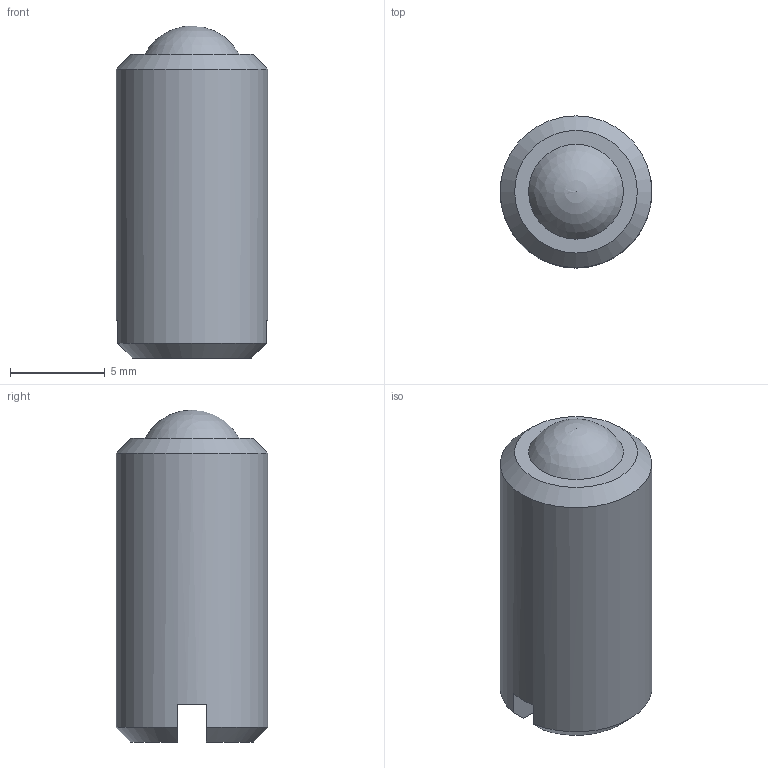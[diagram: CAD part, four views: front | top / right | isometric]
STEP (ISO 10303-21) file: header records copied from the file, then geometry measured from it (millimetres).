
FILE_DESCRIPTION( ( 'STEP AP203' ), '1' );
FILE_NAME( 'C:/Temp/Ganter_Step_05_03_2020/data/3_1/gn615_2/Plastic-Spring plunger GN 615.2-M8-P (deactivated).stp', '2020-03-12T08:38:39', ( 'License CC BY-ND 4.0' ), ( 'CADENAS' ), ' ', 'PARTsolutions', ' ' );
FILE_SCHEMA( ( 'CONFIG_CONTROL_DESIGN' ) );
Length unit declared in the file: millimetre
Products named in the file (1): _Plastic-Spring plunger GN 615.2-M8-P (deactivated)
Bounding box: 8 x 8 x 17.5 mm (x, y, z)
Volume: 783.9 mm3; surface area: 511.2 mm2
Topology: 1 solids, 1 shells, 11 faces, 27 edges, 18 vertices
Faces by surface type: plane 6, cone 3, sphere 1, cylinder 1
Full cylindrical faces by diameter (mm): 8 x1
Entity records: 340 total; most frequent: CARTESIAN_POINT 61, DIRECTION 50, ORIENTED_EDGE 42, AXIS2_PLACEMENT_3D 21, EDGE_CURVE 21, VERTEX_POINT 16, EDGE_LOOP 14, FACE_OUTER_BOUND 12
